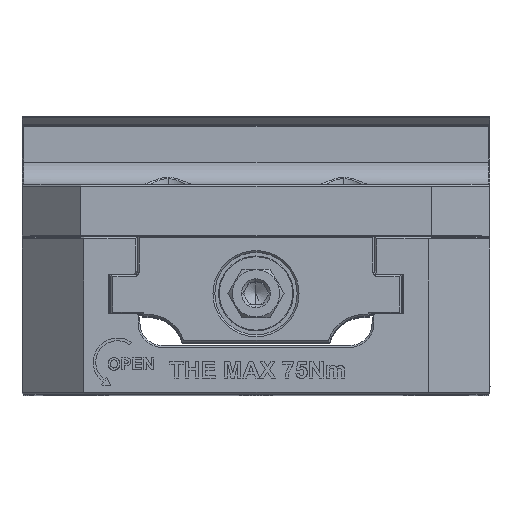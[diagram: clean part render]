
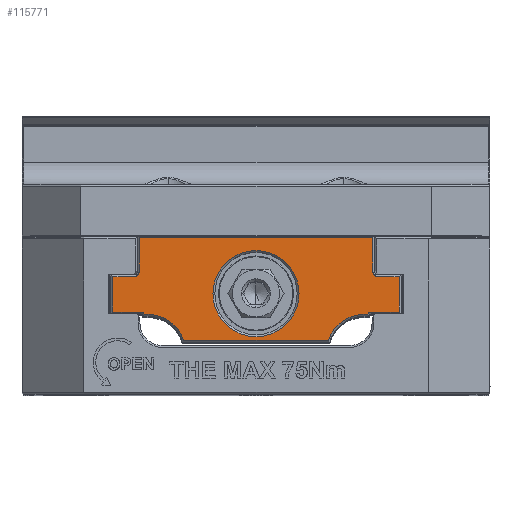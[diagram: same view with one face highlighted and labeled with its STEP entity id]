
A CAD part, top view. The second image highlights one B-rep face of the part: STEP entity #115771.
In plain terms, the highlighted planar face has unit normal (0, 0, 1) as drawn and (0, 0, -1) by its records, which use the part's own axes.
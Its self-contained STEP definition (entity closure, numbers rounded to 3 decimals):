
#114282=DIRECTION('',(1.,0.,0.));
#114283=VECTOR('',#114282,7.396);
#114284=CARTESIAN_POINT('',(-38.25,-19.68,0.08));
#114285=LINE('',#114284,#114283);
#114286=CARTESIAN_POINT('',(-30.853,-20.83,0.08));
#114287=DIRECTION('',(0.,0.,-1.));
#114288=DIRECTION('',(-0.001,1.,0.));
#114289=AXIS2_PLACEMENT_3D('',#114286,#114287,#114288);
#114291=CARTESIAN_POINT('',(-28.851,-30.336,
0.08));
#114292=DIRECTION('',(0.,0.,-1.));
#114293=DIRECTION('',(0.029,1.,0.));
#114294=AXIS2_PLACEMENT_3D('',#114291,#114292,#114293);
#114296=CARTESIAN_POINT('',(28.851,-30.336,
0.08));
#114297=DIRECTION('',(0.,0.,-1.));
#114298=DIRECTION('',(-0.949,0.314,0.));
#114299=AXIS2_PLACEMENT_3D('',#114296,#114297,#114298);
#114301=DIRECTION('',(1.,0.,0.));
#114302=VECTOR('',#114301,1.264);
#114303=CARTESIAN_POINT('',(28.561,-20.315,0.08));
#114304=LINE('',#114303,#114302);
#114305=CARTESIAN_POINT('',(30.853,-20.83,0.08));
#114306=DIRECTION('',(0.,0.,-1.));
#114307=DIRECTION('',(-0.894,0.447,0.));
#114308=AXIS2_PLACEMENT_3D('',#114305,#114306,#114307);
#114310=DIRECTION('',(-1.,0.,0.));
#114311=VECTOR('',#114310,5.85);
#114312=CARTESIAN_POINT('',(38.25,-10.18,0.08));
#114313=LINE('',#114312,#114311);
#114314=CARTESIAN_POINT('',(32.4,-9.03,0.08));
#114315=DIRECTION('',(0.,0.,-1.));
#114316=DIRECTION('',(0.,-1.,0.));
#114317=AXIS2_PLACEMENT_3D('',#114314,#114315,#114316);
#114319=DIRECTION('',(0.,1.,0.));
#114320=VECTOR('',#114319,9.295);
#114321=CARTESIAN_POINT('',(31.25,-9.03,
0.08));
#114322=LINE('',#114321,#114320);
#114323=CARTESIAN_POINT('',(-32.4,-9.034,0.08));
#114324=DIRECTION('',(0.,0.,-1.));
#114325=DIRECTION('',(1.,0.,0.));
#114326=AXIS2_PLACEMENT_3D('',#114323,#114324,#114325);
#114328=DIRECTION('',(-1.,0.,0.));
#114329=VECTOR('',#114328,5.85);
#114330=CARTESIAN_POINT('',(-32.4,-10.184,
0.08));
#114331=LINE('',#114330,#114329);
#114332=DIRECTION('',(0.,-1.,0.));
#114333=VECTOR('',#114332,9.496);
#114334=CARTESIAN_POINT('',(-38.25,-10.184,0.08));
#114335=LINE('',#114334,#114333);
#114336=CARTESIAN_POINT('',(0.,-14.745,0.08));
#114337=DIRECTION('',(0.,0.,-1.));
#114338=DIRECTION('',(-1.,0.,0.));
#114339=AXIS2_PLACEMENT_3D('',#114336,#114337,#114338);
#114341=CARTESIAN_POINT('',(0.,-14.745,0.08));
#114342=DIRECTION('',(0.,0.,-1.));
#114343=DIRECTION('',(0.,1.,0.));
#114344=AXIS2_PLACEMENT_3D('',#114341,#114342,#114343);
#114346=CARTESIAN_POINT('',(0.,-14.745,0.08));
#114347=DIRECTION('',(0.,0.,-1.));
#114348=DIRECTION('',(1.,0.,0.));
#114349=AXIS2_PLACEMENT_3D('',#114346,#114347,#114348);
#114351=CARTESIAN_POINT('',(0.,-14.745,0.08));
#114352=DIRECTION('',(0.,0.,-1.));
#114353=DIRECTION('',(0.,-1.,0.));
#114354=AXIS2_PLACEMENT_3D('',#114351,#114352,#114353);
#114598=DIRECTION('',(0.,-1.,0.));
#114599=VECTOR('',#114598,9.5);
#114600=CARTESIAN_POINT('',(38.25,-10.18,0.08));
#114601=LINE('',#114600,#114599);
#114602=DIRECTION('',(-1.,0.,0.));
#114603=VECTOR('',#114602,7.397);
#114604=CARTESIAN_POINT('',(38.25,-19.68,0.08));
#114605=LINE('',#114604,#114603);
#114642=DIRECTION('',(-1.,0.,0.));
#114643=VECTOR('',#114642,38.668);
#114644=CARTESIAN_POINT('',(19.334,-27.184,
0.08));
#114645=LINE('',#114644,#114643);
#114673=DIRECTION('',(-1.,0.,0.));
#114674=VECTOR('',#114673,1.264);
#114675=CARTESIAN_POINT('',(-28.561,-20.315,0.08));
#114676=LINE('',#114675,#114674);
#115001=DIRECTION('',(0.,1.,0.));
#115002=VECTOR('',#115001,9.3);
#115003=CARTESIAN_POINT('',(-31.25,-9.034,0.08));
#115004=LINE('',#115003,#115002);
#115025=DIRECTION('',(1.,0.,0.));
#115026=VECTOR('',#115025,62.499);
#115027=CARTESIAN_POINT('',(-31.25,0.266,0.08));
#115028=LINE('',#115027,#115026);
#115382=CARTESIAN_POINT('',(0.,-3.247,0.08));
#115383=CARTESIAN_POINT('',(11.498,-14.745,0.08));
#115384=VERTEX_POINT('',#115382);
#115385=VERTEX_POINT('',#115383);
#115386=CARTESIAN_POINT('',(-11.498,-14.745,0.08));
#115387=VERTEX_POINT('',#115386);
#115388=CARTESIAN_POINT('',(-38.25,-19.68,0.08));
#115389=CARTESIAN_POINT('',(-30.854,-19.68,
0.08));
#115390=VERTEX_POINT('',#115388);
#115391=VERTEX_POINT('',#115389);
#115392=CARTESIAN_POINT('',(-29.825,-20.315,
0.08));
#115393=VERTEX_POINT('',#115392);
#115394=CARTESIAN_POINT('',(-28.561,-20.315,0.08));
#115395=VERTEX_POINT('',#115394);
#115396=CARTESIAN_POINT('',(-19.334,-27.184,
0.08));
#115397=VERTEX_POINT('',#115396);
#115398=CARTESIAN_POINT('',(19.334,-27.184,
0.08));
#115399=VERTEX_POINT('',#115398);
#115400=CARTESIAN_POINT('',(28.561,-20.315,0.08));
#115401=VERTEX_POINT('',#115400);
#115402=CARTESIAN_POINT('',(29.825,-20.315,
0.08));
#115403=VERTEX_POINT('',#115402);
#115404=CARTESIAN_POINT('',(30.853,-19.68,0.08));
#115405=VERTEX_POINT('',#115404);
#115406=CARTESIAN_POINT('',(38.25,-19.68,0.08));
#115407=VERTEX_POINT('',#115406);
#115408=CARTESIAN_POINT('',(38.25,-10.18,0.08));
#115409=VERTEX_POINT('',#115408);
#115410=CARTESIAN_POINT('',(32.4,-10.18,
0.08));
#115411=VERTEX_POINT('',#115410);
#115412=CARTESIAN_POINT('',(31.25,-9.03,0.08));
#115413=VERTEX_POINT('',#115412);
#115414=CARTESIAN_POINT('',(31.25,0.266,0.08));
#115415=VERTEX_POINT('',#115414);
#115416=CARTESIAN_POINT('',(-31.25,0.266,0.08));
#115417=VERTEX_POINT('',#115416);
#115418=CARTESIAN_POINT('',(-31.25,-9.034,0.08));
#115419=VERTEX_POINT('',#115418);
#115420=CARTESIAN_POINT('',(-32.4,-10.184,0.08));
#115421=VERTEX_POINT('',#115420);
#115422=CARTESIAN_POINT('',(-38.25,-10.184,0.08));
#115423=VERTEX_POINT('',#115422);
#115424=CARTESIAN_POINT('',(0.,-26.243,0.08));
#115425=VERTEX_POINT('',#115424);
#115720=CARTESIAN_POINT('',(-28.851,-30.336,0.08));
#115721=DIRECTION('',(0.,0.,-1.));
#115722=DIRECTION('',(-1.,0.,0.));
#115723=AXIS2_PLACEMENT_3D('',#115720,#115721,#115722);
#115724=PLANE('',#115723);
#115726=ORIENTED_EDGE('',*,*,#115725,.T.);
#115728=ORIENTED_EDGE('',*,*,#115727,.T.);
#115730=ORIENTED_EDGE('',*,*,#115729,.F.);
#115732=ORIENTED_EDGE('',*,*,#115731,.T.);
#115734=ORIENTED_EDGE('',*,*,#115733,.F.);
#115736=ORIENTED_EDGE('',*,*,#115735,.T.);
#115738=ORIENTED_EDGE('',*,*,#115737,.T.);
#115740=ORIENTED_EDGE('',*,*,#115739,.T.);
#115742=ORIENTED_EDGE('',*,*,#115741,.F.);
#115744=ORIENTED_EDGE('',*,*,#115743,.F.);
#115746=ORIENTED_EDGE('',*,*,#115745,.T.);
#115748=ORIENTED_EDGE('',*,*,#115747,.T.);
#115750=ORIENTED_EDGE('',*,*,#115749,.T.);
#115752=ORIENTED_EDGE('',*,*,#115751,.F.);
#115754=ORIENTED_EDGE('',*,*,#115753,.F.);
#115756=ORIENTED_EDGE('',*,*,#115755,.T.);
#115758=ORIENTED_EDGE('',*,*,#115757,.T.);
#115760=ORIENTED_EDGE('',*,*,#115759,.T.);
#115761=EDGE_LOOP('',(#115726,#115728,#115730,#115732,#115734,#115736,#115738,
#115740,#115742,#115744,#115746,#115748,#115750,#115752,#115754,#115756,#115758,
#115760));
#115762=FACE_OUTER_BOUND('',#115761,.F.);
#115763=ORIENTED_EDGE('',*,*,#115709,.T.);
#115764=ORIENTED_EDGE('',*,*,#115707,.T.);
#115766=ORIENTED_EDGE('',*,*,#115765,.T.);
#115768=ORIENTED_EDGE('',*,*,#115767,.T.);
#115769=EDGE_LOOP('',(#115763,#115764,#115766,#115768));
#115770=FACE_BOUND('',#115769,.F.);
#115771=ADVANCED_FACE('',(#115762,#115770),#115724,.T.);
#114290=CIRCLE('',#114289,1.15);
#114295=CIRCLE('',#114294,10.025);
#114300=CIRCLE('',#114299,10.025);
#114309=CIRCLE('',#114308,1.15);
#114318=CIRCLE('',#114317,1.15);
#114327=CIRCLE('',#114326,1.15);
#114340=CIRCLE('',#114339,11.498);
#114345=CIRCLE('',#114344,11.498);
#114350=CIRCLE('',#114349,11.498);
#114355=CIRCLE('',#114354,11.498);
#115707=EDGE_CURVE('',#115384,#115385,#114345,.T.);
#115709=EDGE_CURVE('',#115387,#115384,#114340,.T.);
#115725=EDGE_CURVE('',#115390,#115391,#114285,.T.);
#115727=EDGE_CURVE('',#115391,#115393,#114290,.T.);
#115729=EDGE_CURVE('',#115395,#115393,#114676,.T.);
#115731=EDGE_CURVE('',#115395,#115397,#114295,.T.);
#115733=EDGE_CURVE('',#115399,#115397,#114645,.T.);
#115735=EDGE_CURVE('',#115399,#115401,#114300,.T.);
#115737=EDGE_CURVE('',#115401,#115403,#114304,.T.);
#115739=EDGE_CURVE('',#115403,#115405,#114309,.T.);
#115741=EDGE_CURVE('',#115407,#115405,#114605,.T.);
#115743=EDGE_CURVE('',#115409,#115407,#114601,.T.);
#115745=EDGE_CURVE('',#115409,#115411,#114313,.T.);
#115747=EDGE_CURVE('',#115411,#115413,#114318,.T.);
#115749=EDGE_CURVE('',#115413,#115415,#114322,.T.);
#115751=EDGE_CURVE('',#115417,#115415,#115028,.T.);
#115753=EDGE_CURVE('',#115419,#115417,#115004,.T.);
#115755=EDGE_CURVE('',#115419,#115421,#114327,.T.);
#115757=EDGE_CURVE('',#115421,#115423,#114331,.T.);
#115759=EDGE_CURVE('',#115423,#115390,#114335,.T.);
#115765=EDGE_CURVE('',#115385,#115425,#114350,.T.);
#115767=EDGE_CURVE('',#115425,#115387,#114355,.T.);
